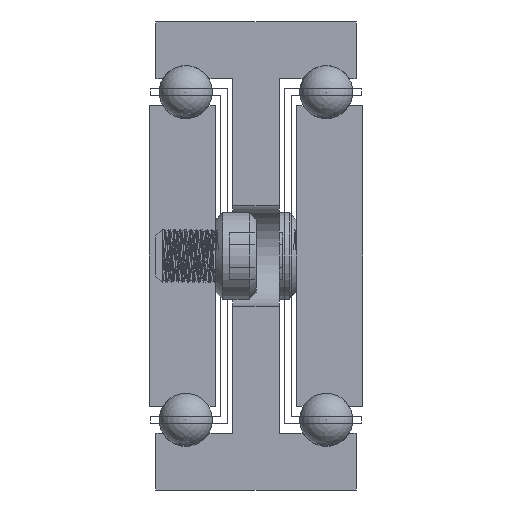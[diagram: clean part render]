
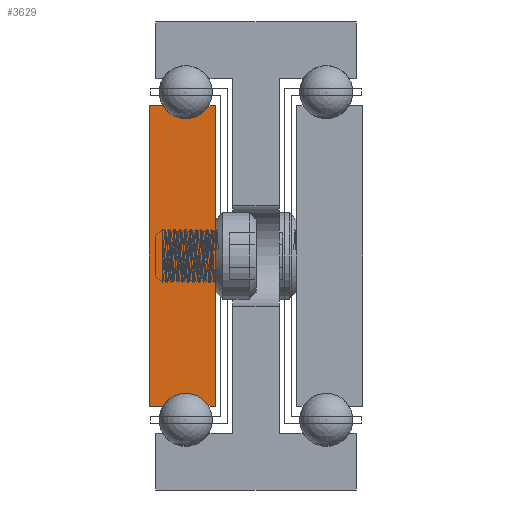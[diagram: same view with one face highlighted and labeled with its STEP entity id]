
A CAD part, front view. The second image highlights one B-rep face of the part: STEP entity #3629.
In plain terms, the highlighted planar face has unit normal (0, -1, 0).
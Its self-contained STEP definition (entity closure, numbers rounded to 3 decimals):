
#475=CIRCLE('',#3912,4.);
#477=CIRCLE('',#3918,4.);
#779=FACE_OUTER_BOUND('',#1005,.T.);
#1005=EDGE_LOOP('',(#2924,#2925,#2926,#2927,#2928,#2929,#2930,#2931));
#1378=LINE('',#5596,#1590);
#1381=LINE('',#5602,#1593);
#1385=LINE('',#5614,#1597);
#1388=LINE('',#5620,#1600);
#1391=LINE('',#5626,#1603);
#1395=LINE('',#5636,#1607);
#1590=VECTOR('',#4502,1.);
#1593=VECTOR('',#4507,1.);
#1597=VECTOR('',#4519,1.);
#1600=VECTOR('',#4524,1.);
#1603=VECTOR('',#4529,1.);
#1607=VECTOR('',#4541,1.);
#1810=VERTEX_POINT('',#5593);
#1811=VERTEX_POINT('',#5595);
#1813=VERTEX_POINT('',#5601);
#1815=VERTEX_POINT('',#5607);
#1817=VERTEX_POINT('',#5613);
#1819=VERTEX_POINT('',#5619);
#1821=VERTEX_POINT('',#5625);
#1823=VERTEX_POINT('',#5631);
#2292=EDGE_CURVE('',#1811,#1810,#1378,.T.);
#2295=EDGE_CURVE('',#1813,#1811,#1381,.T.);
#2298=EDGE_CURVE('',#1815,#1813,#475,.T.);
#2301=EDGE_CURVE('',#1817,#1815,#1385,.T.);
#2304=EDGE_CURVE('',#1819,#1817,#1388,.T.);
#2307=EDGE_CURVE('',#1821,#1819,#1391,.T.);
#2310=EDGE_CURVE('',#1823,#1821,#477,.T.);
#2313=EDGE_CURVE('',#1810,#1823,#1395,.T.);
#2924=ORIENTED_EDGE('',*,*,#2313,.T.);
#2925=ORIENTED_EDGE('',*,*,#2310,.T.);
#2926=ORIENTED_EDGE('',*,*,#2307,.T.);
#2927=ORIENTED_EDGE('',*,*,#2304,.T.);
#2928=ORIENTED_EDGE('',*,*,#2301,.T.);
#2929=ORIENTED_EDGE('',*,*,#2298,.T.);
#2930=ORIENTED_EDGE('',*,*,#2295,.T.);
#2931=ORIENTED_EDGE('',*,*,#2292,.T.);
#3527=PLANE('',#3921);
#3629=ADVANCED_FACE('',(#779),#3527,.T.);
#3912=AXIS2_PLACEMENT_3D('',#5608,#4513,#4514);
#3918=AXIS2_PLACEMENT_3D('',#5632,#4535,#4536);
#3921=AXIS2_PLACEMENT_3D('',#5638,#4544,#4545);
#4502=DIRECTION('',(0.,0.,-1.));
#4507=DIRECTION('',(-1.,0.,0.));
#4513=DIRECTION('center_axis',(0.,1.,0.));
#4514=DIRECTION('ref_axis',(-0.866,0.,-0.5));
#4519=DIRECTION('',(-1.,0.,0.));
#4524=DIRECTION('',(0.,0.,1.));
#4529=DIRECTION('',(1.,0.,0.));
#4535=DIRECTION('center_axis',(0.,1.,0.));
#4536=DIRECTION('ref_axis',(0.866,0.,0.5));
#4541=DIRECTION('',(1.,0.,0.));
#4544=DIRECTION('center_axis',(0.,-1.,0.));
#4545=DIRECTION('ref_axis',(1.,0.,0.));
#5593=CARTESIAN_POINT('',(-2675.715,-1661.52,777.5));
#5595=CARTESIAN_POINT('',(-2675.715,-1661.52,822.5));
#5596=CARTESIAN_POINT('',(-2675.715,-1661.52,777.5));
#5601=CARTESIAN_POINT('',(-2673.679,-1661.52,822.5));
#5602=CARTESIAN_POINT('',(-2675.715,-1661.52,822.5));
#5607=CARTESIAN_POINT('',(-2666.75,-1661.52,822.5));
#5608=CARTESIAN_POINT('Origin',(-2670.215,-1661.52,824.5));
#5613=CARTESIAN_POINT('',(-2665.715,-1661.52,822.5));
#5614=CARTESIAN_POINT('',(-2666.75,-1661.52,822.5));
#5619=CARTESIAN_POINT('',(-2665.715,-1661.52,777.5));
#5620=CARTESIAN_POINT('',(-2665.715,-1661.52,822.5));
#5625=CARTESIAN_POINT('',(-2666.75,-1661.52,777.5));
#5626=CARTESIAN_POINT('',(-2665.715,-1661.52,777.5));
#5631=CARTESIAN_POINT('',(-2673.679,-1661.52,777.5));
#5632=CARTESIAN_POINT('Origin',(-2670.215,-1661.52,775.5));
#5636=CARTESIAN_POINT('',(-2673.679,-1661.52,777.5));
#5638=CARTESIAN_POINT('Origin',(-2670.72,-1661.52,800.));
